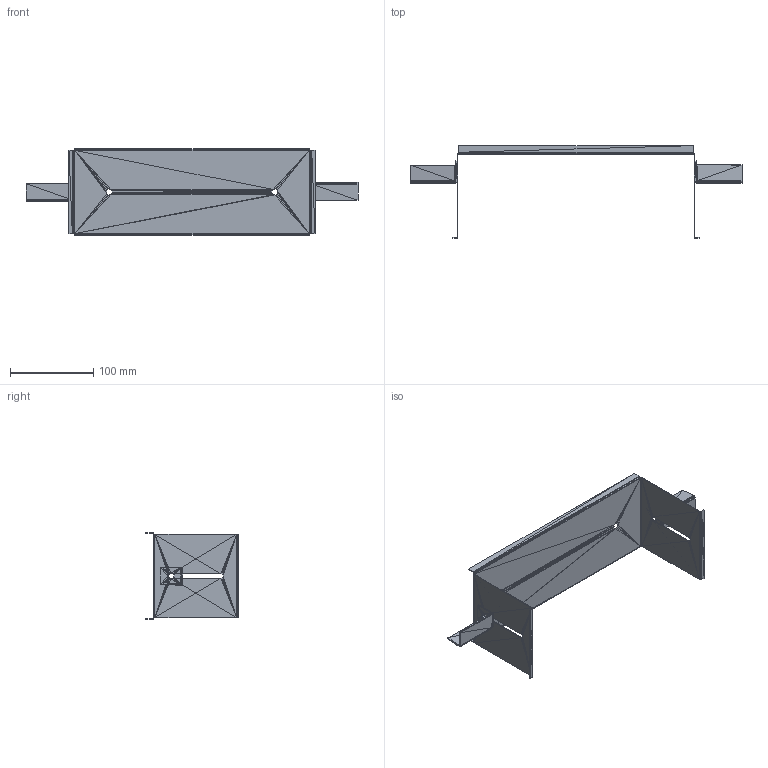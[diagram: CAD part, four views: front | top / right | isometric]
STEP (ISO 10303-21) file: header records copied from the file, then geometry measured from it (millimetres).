
FILE_DESCRIPTION((''),'2;1');
FILE_NAME('003587', '2025-08-11T07:10:15', (''), (''), 'ImageToStl.com STEP Converter','', '');
FILE_SCHEMA(('AUTOMOTIVE_DESIGN_CC2'));
Length unit declared in the file: metre
Products named in the file (1): product0
Bounding box: 398 x 111 x 104 mm (x, y, z)
Surface area: 122020.5 mm2 (no closed solid volume)
Topology: 0 solids, 928 shells, 928 faces, 2784 edges, 458 vertices
Faces by surface type: plane 928
Entity records: 21360 total; most frequent: DIRECTION 4642, ORIENTED_EDGE 2784, EDGE_CURVE 2784, LINE 2784, VECTOR 2784, AXIS2_PLACEMENT_3D 929, FACE_SURFACE 928, PLANE 928
